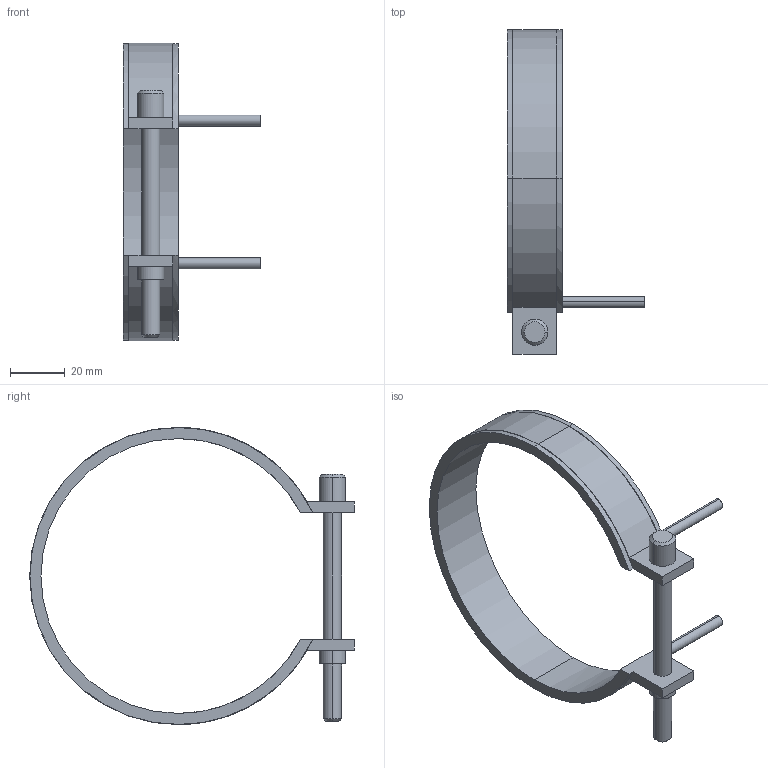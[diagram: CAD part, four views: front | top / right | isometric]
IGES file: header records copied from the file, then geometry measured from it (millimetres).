
Start section: START RECORD GO HERE.
Global section: file name: 14100020.igs; native system: DASSAULT SYSTEMES CATIA V5 R20 - www.3ds.com; preprocessor: CATIA Version 5 Release 20 ; author: Utente; organization: NB04-ASUS; date: 20210403.105755; units: millimetre
Bounding box: 50 x 118.1 x 108.2 mm (x, y, z)
Surface area: 17418.7 mm2 (no closed solid volume)
Topology: 0 solids, 0 shells, 45 faces, 232 edges, 232 vertices
Faces by surface type: revolution 28, plane 17
